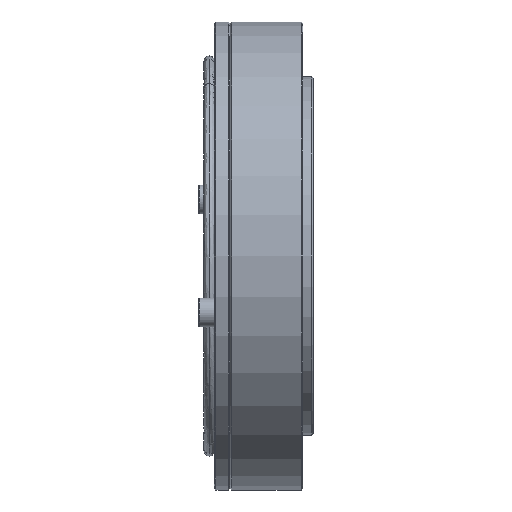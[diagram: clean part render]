
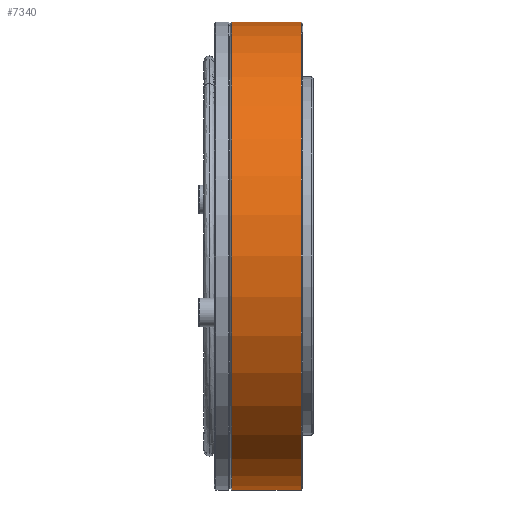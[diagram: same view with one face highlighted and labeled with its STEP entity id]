
A CAD part, front view. The second image highlights one B-rep face of the part: STEP entity #7340.
In plain terms, the highlighted cylindrical face has radius 45 mm (diameter 90 mm), a partial arc.
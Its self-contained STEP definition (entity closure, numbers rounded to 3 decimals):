
#16 = DIRECTION ( 'NONE',  ( 0., 0., 1. ) ) ;
#78 = DIRECTION ( 'NONE',  ( 1., 0., 0. ) ) ;
#127 = CYLINDRICAL_SURFACE ( 'NONE', #18067, 45. ) ;
#457 = VERTEX_POINT ( 'NONE', #11830 ) ;
#1445 = CARTESIAN_POINT ( 'NONE',  ( 0., 0., -45. ) ) ;
#2232 = VECTOR ( 'NONE', #10492, 1000. ) ;
#2334 = LINE ( 'NONE', #1445, #4380 ) ;
#3158 = LINE ( 'NONE', #9173, #2232 ) ;
#3258 = EDGE_LOOP ( 'NONE', ( #9348, #18045, #9619, #17987, #13796 ) ) ;
#3684 = VERTEX_POINT ( 'NONE', #18344 ) ;
#3875 = DIRECTION ( 'NONE',  ( 0., 0., 1. ) ) ;
#4380 = VECTOR ( 'NONE', #14774, 1000. ) ;
#5027 = VERTEX_POINT ( 'NONE', #5672 ) ;
#5672 = CARTESIAN_POINT ( 'NONE',  ( 13.7, 0., -45. ) ) ;
#5701 = CARTESIAN_POINT ( 'NONE',  ( 13.7, 0., 0. ) ) ;
#5996 = CIRCLE ( 'NONE', #12134, 45. ) ;
#6564 = EDGE_CURVE ( 'NONE', #14496, #8801, #17448, .T. ) ;
#7340 = ADVANCED_FACE ( 'NONE', ( #10508 ), #127, .T. ) ;
#7901 = DIRECTION ( 'NONE',  ( -1., 0., 0. ) ) ;
#8147 = DIRECTION ( 'NONE',  ( -1., 0., 0. ) ) ;
#8759 = EDGE_CURVE ( 'NONE', #5027, #8801, #2334, .T. ) ;
#8801 = VERTEX_POINT ( 'NONE', #17860 ) ;
#9028 = AXIS2_PLACEMENT_3D ( 'NONE', #14302, #78, #16 ) ;
#9173 = CARTESIAN_POINT ( 'NONE',  ( 0., 0., 45. ) ) ;
#9348 = ORIENTED_EDGE ( 'NONE', *, *, #8759, .F. ) ;
#9619 = ORIENTED_EDGE ( 'NONE', *, *, #15441, .T. ) ;
#9761 = DIRECTION ( 'NONE',  ( -1., 0., 0. ) ) ;
#10086 = AXIS2_PLACEMENT_3D ( 'NONE', #12653, #8147, #3875 ) ;
#10492 = DIRECTION ( 'NONE',  ( -1., 0., 0. ) ) ;
#10508 = FACE_OUTER_BOUND ( 'NONE', #3258, .T. ) ;
#11154 = CARTESIAN_POINT ( 'NONE',  ( 0.3, 0., 45. ) ) ;
#11830 = CARTESIAN_POINT ( 'NONE',  ( 13.7, -45., 0. ) ) ;
#12134 = AXIS2_PLACEMENT_3D ( 'NONE', #5701, #9761, #14264 ) ;
#12153 = EDGE_CURVE ( 'NONE', #3684, #14496, #3158, .T. ) ;
#12653 = CARTESIAN_POINT ( 'NONE',  ( 13.7, 0., 0. ) ) ;
#13796 = ORIENTED_EDGE ( 'NONE', *, *, #6564, .T. ) ;
#14264 = DIRECTION ( 'NONE',  ( 0., 0., 1. ) ) ;
#14302 = CARTESIAN_POINT ( 'NONE',  ( 0.3, 0., 0. ) ) ;
#14322 = CIRCLE ( 'NONE', #10086, 45. ) ;
#14496 = VERTEX_POINT ( 'NONE', #11154 ) ;
#14774 = DIRECTION ( 'NONE',  ( -1., 0., 0. ) ) ;
#15347 = CARTESIAN_POINT ( 'NONE',  ( 0., 0., 0. ) ) ;
#15441 = EDGE_CURVE ( 'NONE', #457, #3684, #5996, .T. ) ;
#16765 = EDGE_CURVE ( 'NONE', #5027, #457, #14322, .T. ) ;
#17448 = CIRCLE ( 'NONE', #9028, 45. ) ;
#17860 = CARTESIAN_POINT ( 'NONE',  ( 0.3, 0., -45. ) ) ;
#17987 = ORIENTED_EDGE ( 'NONE', *, *, #12153, .T. ) ;
#18045 = ORIENTED_EDGE ( 'NONE', *, *, #16765, .T. ) ;
#18067 = AXIS2_PLACEMENT_3D ( 'NONE', #15347, #7901, #18093 ) ;
#18093 = DIRECTION ( 'NONE',  ( 0., 0., 1. ) ) ;
#18344 = CARTESIAN_POINT ( 'NONE',  ( 13.7, 0., 45. ) ) ;
